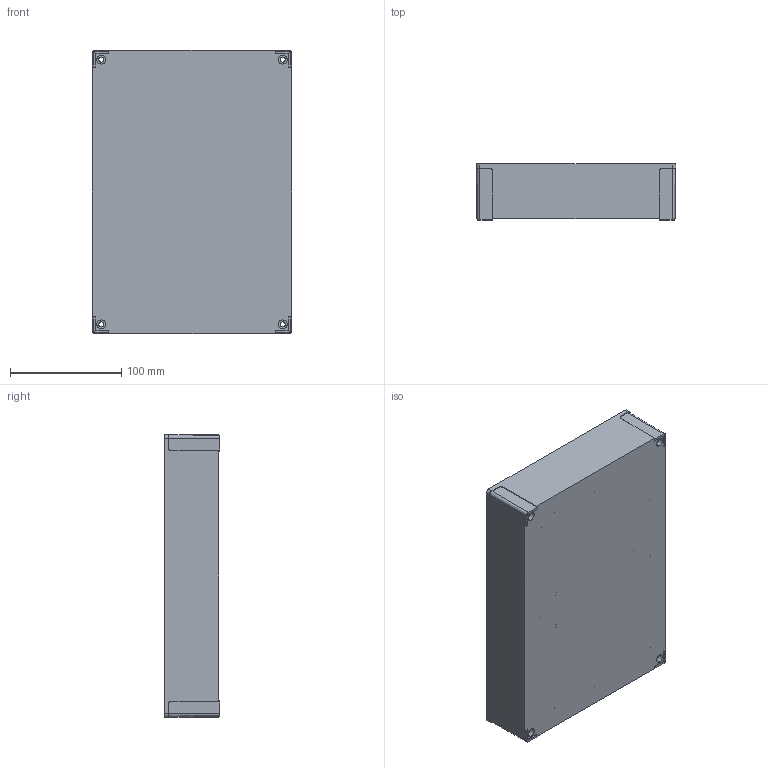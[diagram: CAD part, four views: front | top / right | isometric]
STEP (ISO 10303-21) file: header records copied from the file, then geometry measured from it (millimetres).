
FILE_DESCRIPTION (( 'STEP AP203' ), '1' );
FILE_NAME ('FIBOX_MNX200HB.STEP', '2005-06-30T06:56:35', ( ' ' ), ( ' ' ), 'SwSTEP 2.0', 'SolidWorks 2005143', '' );
FILE_SCHEMA (( 'CONFIG_CONTROL_DESIGN' ));
Length unit declared in the file: millimetre
Products named in the file (1): FIBOX_MNX200HB
Bounding box: 180.1 x 50 x 255.1 mm (x, y, z)
Volume: 323136.3 mm3; surface area: 182693.5 mm2
Topology: 1 solids, 1 shells, 398 faces, 933 edges, 622 vertices
Faces by surface type: plane 198, cylinder 164, cone 36
Entity records: 11686 total; most frequent: CARTESIAN_POINT 2098, DIRECTION 2091, ORIENTED_EDGE 1866, EDGE_CURVE 933, AXIS2_PLACEMENT_3D 791, VERTEX_POINT 622, VECTOR 509, LINE 509
